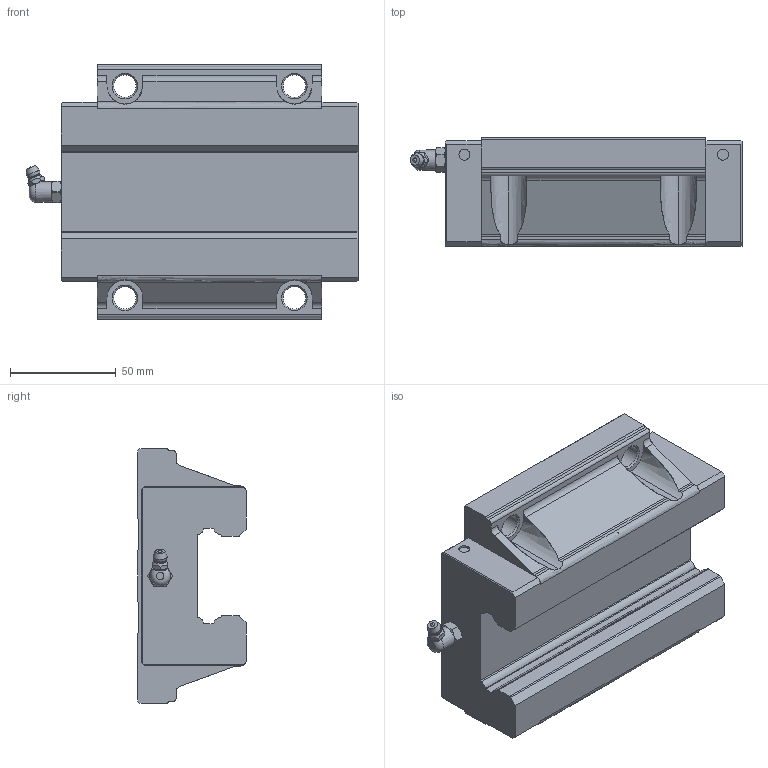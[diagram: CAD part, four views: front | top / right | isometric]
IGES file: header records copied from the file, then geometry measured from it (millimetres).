
Start section: Data from Parasolid IGES Translator 26.0.171, Copyright(c) 2006 Siemens PLM Software. All Rights Reserved.
Global section: file name: SHS45C1SS(GK) BLOCK(B-PT1_81).igs; native system: By Siemens PLM Incorporated; preprocessor: XPlus GENERIC/IGES 26.0.171; author: Noname; organization: Noname; date: 20240514.033702; units: millimetre
Bounding box: 156.7 x 51.1 x 120 mm (x, y, z)
Surface area: 62726.9 mm2 (no closed solid volume)
Topology: 0 solids, 0 shells, 176 faces, 989 edges, 969 vertices
Faces by surface type: extrusion 99, revolution 77
